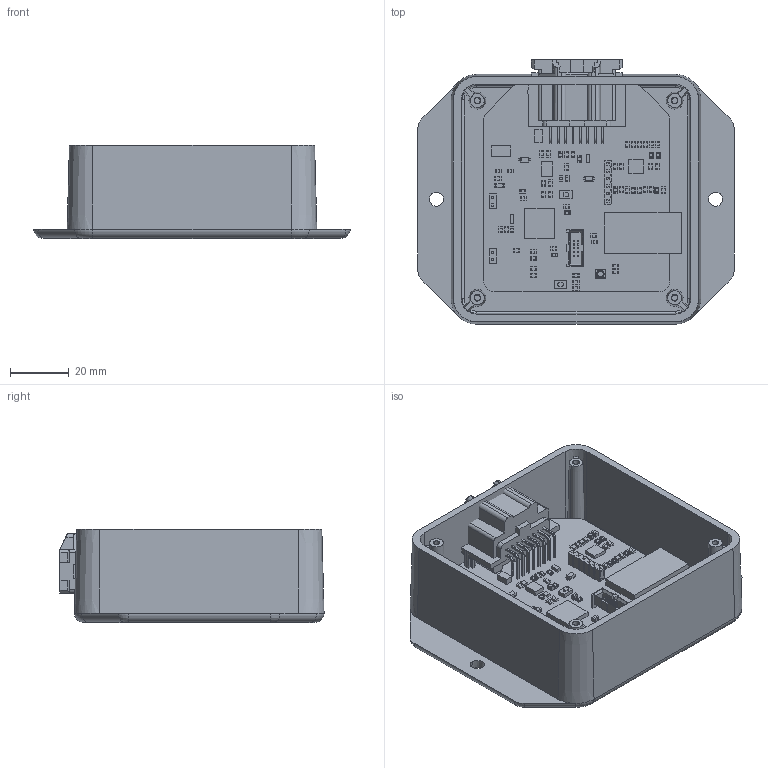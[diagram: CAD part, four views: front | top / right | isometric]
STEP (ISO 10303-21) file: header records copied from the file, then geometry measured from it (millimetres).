
FILE_DESCRIPTION(('Open CASCADE Model'),'2;1');
FILE_NAME('Open CASCADE Shape Model','2023-11-29T18:59:54',('Author'),( 'Open CASCADE'),'Open CASCADE STEP processor 6.8','Open CASCADE 6.8' ,'Unknown');
FILE_SCHEMA(('AUTOMOTIVE_DESIGN { 1 0 10303 214 1 1 1 1 }'));
Products named in the file (1): PCB
Bounding box: 107.95 x 90.14 x 31.75 mm (x, y, z)
Volume: 66511.5 mm3; surface area: 57849.6 mm2
Topology: 124 solids, 1570 shells, 3121 faces, 10812 edges, 9354 vertices
Faces by surface type: plane 1977, cylinder 606, bspline 262, sphere 205, cone 53, torus 12, revolution 6
Full cylindrical faces by diameter (mm): 0.8 x1
Entity records: 130747 total; most frequent: CARTESIAN_POINT 27554, DIRECTION 18466, ORIENTED_EDGE 14404, EDGE_CURVE 10485, VERTEX_POINT 9130, LINE 7550, VECTOR 7550, AXIS2_PLACEMENT_3D 5455
